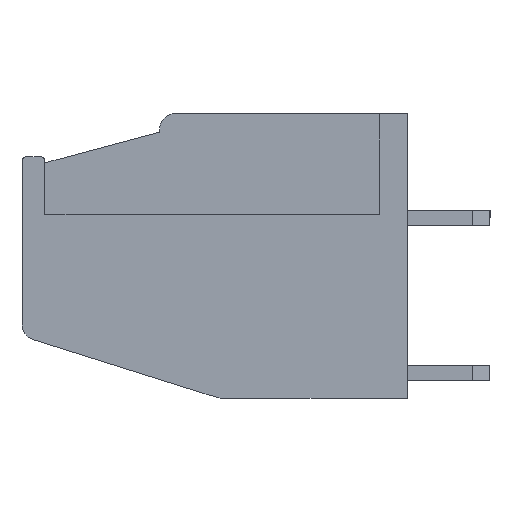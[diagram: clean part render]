
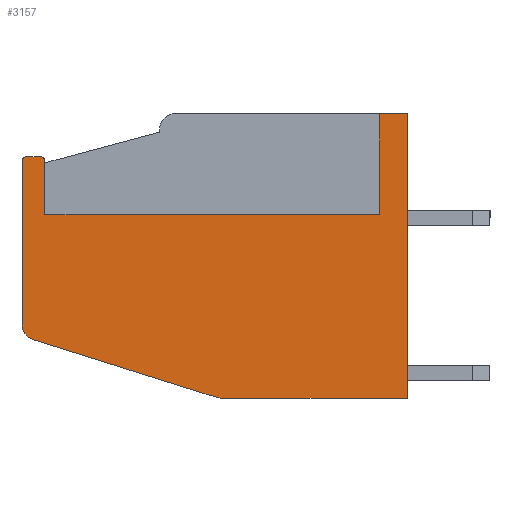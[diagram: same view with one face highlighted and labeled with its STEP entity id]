
A CAD part, left-side view. The second image highlights one B-rep face of the part: STEP entity #3157.
In plain terms, the highlighted planar face has unit normal (-1, 0, 0).
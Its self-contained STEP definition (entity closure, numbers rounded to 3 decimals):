
#31 = EDGE_CURVE ( 'NONE', #625, #3486, #2262, .T. ) ;
#81 = VERTEX_POINT ( 'NONE', #715 ) ;
#98 = VERTEX_POINT ( 'NONE', #2448 ) ;
#162 = CARTESIAN_POINT ( 'NONE',  ( -4.355, 11.85, 3.1 ) ) ;
#163 = ORIENTED_EDGE ( 'NONE', *, *, #609, .F. ) ;
#177 = EDGE_CURVE ( 'NONE', #2992, #2513, #2066, .T. ) ;
#265 = ORIENTED_EDGE ( 'NONE', *, *, #1905, .F. ) ;
#353 = ORIENTED_EDGE ( 'NONE', *, *, #3354, .F. ) ;
#400 = LINE ( 'NONE', #2614, #1692 ) ;
#405 = VERTEX_POINT ( 'NONE', #840 ) ;
#424 = CARTESIAN_POINT ( 'NONE',  ( -4.355, 12.6, 3.1 ) ) ;
#430 = VECTOR ( 'NONE', #2268, 1000. ) ;
#514 = CARTESIAN_POINT ( 'NONE',  ( -4.355, 6.074, -4.65 ) ) ;
#529 = LINE ( 'NONE', #2523, #3452 ) ;
#571 = ORIENTED_EDGE ( 'NONE', *, *, #2253, .F. ) ;
#596 = EDGE_CURVE ( 'NONE', #98, #1168, #529, .T. ) ;
#609 = EDGE_CURVE ( 'NONE', #405, #2055, #2670, .T. ) ;
#625 = VERTEX_POINT ( 'NONE', #514 ) ;
#638 = CARTESIAN_POINT ( 'NONE',  ( -4.355, 12.6, -2.25 ) ) ;
#661 = AXIS2_PLACEMENT_3D ( 'NONE', #1084, #2610, #3480 ) ;
#715 = CARTESIAN_POINT ( 'NONE',  ( -4.355, 0.9, 4.65 ) ) ;
#735 = DIRECTION ( 'NONE',  ( 0., 0.954, 0.301 ) ) ;
#744 = CARTESIAN_POINT ( 'NONE',  ( -4.355, 12.1, -2.25 ) ) ;
#784 = EDGE_CURVE ( 'NONE', #2055, #2992, #1138, .T. ) ;
#802 = ORIENTED_EDGE ( 'NONE', *, *, #31, .F. ) ;
#817 = VERTEX_POINT ( 'NONE', #162 ) ;
#840 = CARTESIAN_POINT ( 'NONE',  ( -4.355, 12.25, -2.727 ) ) ;
#956 = AXIS2_PLACEMENT_3D ( 'NONE', #3550, #1327, #966 ) ;
#963 = CIRCLE ( 'NONE', #1370, 0.15 ) ;
#966 = DIRECTION ( 'NONE',  ( 0., 0., -1. ) ) ;
#1021 = CARTESIAN_POINT ( 'NONE',  ( -4.355, 6.224, -4.627 ) ) ;
#1026 = DIRECTION ( 'NONE',  ( 0., -1., 0. ) ) ;
#1070 = DIRECTION ( 'NONE',  ( 0., 0., -1. ) ) ;
#1084 = CARTESIAN_POINT ( 'NONE',  ( -4.355, 6.074, -4.15 ) ) ;
#1106 = VERTEX_POINT ( 'NONE', #1750 ) ;
#1138 = LINE ( 'NONE', #638, #430 ) ;
#1168 = VERTEX_POINT ( 'NONE', #2295 ) ;
#1317 = LINE ( 'NONE', #1611, #1810 ) ;
#1320 = DIRECTION ( 'NONE',  ( 0., 0., -1. ) ) ;
#1327 = DIRECTION ( 'NONE',  ( 1., 0., 0. ) ) ;
#1345 = EDGE_CURVE ( 'NONE', #2037, #817, #963, .T. ) ;
#1370 = AXIS2_PLACEMENT_3D ( 'NONE', #2787, #2524, #1320 ) ;
#1456 = CARTESIAN_POINT ( 'NONE',  ( -4.355, 6.224, -4.627 ) ) ;
#1520 = CARTESIAN_POINT ( 'NONE',  ( -4.355, 7.6, 4.65 ) ) ;
#1534 = LINE ( 'NONE', #1887, #1565 ) ;
#1539 = AXIS2_PLACEMENT_3D ( 'NONE', #744, #3613, #1070 ) ;
#1565 = VECTOR ( 'NONE', #1026, 1000. ) ;
#1597 = DIRECTION ( 'NONE',  ( 0., 0., -1. ) ) ;
#1611 = CARTESIAN_POINT ( 'NONE',  ( -4.355, 0., -4.65 ) ) ;
#1642 = ORIENTED_EDGE ( 'NONE', *, *, #177, .F. ) ;
#1692 = VECTOR ( 'NONE', #2669, 1000. ) ;
#1750 = CARTESIAN_POINT ( 'NONE',  ( -4.355, 0., -4.65 ) ) ;
#1766 = EDGE_LOOP ( 'NONE', ( #265, #2659, #3039, #571, #3446, #2265, #1642, #2047, #163, #353, #802, #2246, #2004 ) ) ;
#1798 = LINE ( 'NONE', #1520, #1856 ) ;
#1810 = VECTOR ( 'NONE', #2468, 1000. ) ;
#1856 = VECTOR ( 'NONE', #2085, 1000. ) ;
#1867 = CARTESIAN_POINT ( 'NONE',  ( -4.355, 11.85, 3.1 ) ) ;
#1873 = CARTESIAN_POINT ( 'NONE',  ( -4.355, 0., 4.65 ) ) ;
#1887 = CARTESIAN_POINT ( 'NONE',  ( -4.355, 12.45, 3.25 ) ) ;
#1905 = EDGE_CURVE ( 'NONE', #81, #2034, #1798, .T. ) ;
#2004 = ORIENTED_EDGE ( 'NONE', *, *, #2356, .F. ) ;
#2034 = VERTEX_POINT ( 'NONE', #2780 ) ;
#2037 = VERTEX_POINT ( 'NONE', #2450 ) ;
#2047 = ORIENTED_EDGE ( 'NONE', *, *, #784, .F. ) ;
#2055 = VERTEX_POINT ( 'NONE', #2142 ) ;
#2066 = CIRCLE ( 'NONE', #956, 0.15 ) ;
#2085 = DIRECTION ( 'NONE',  ( 0., -1., 0. ) ) ;
#2142 = CARTESIAN_POINT ( 'NONE',  ( -4.355, 12.6, -2.25 ) ) ;
#2144 = DIRECTION ( 'NONE',  ( 0., 0., -1. ) ) ;
#2145 = DIRECTION ( 'NONE',  ( 0., 0., -1. ) ) ;
#2246 = ORIENTED_EDGE ( 'NONE', *, *, #2658, .F. ) ;
#2249 = EDGE_CURVE ( 'NONE', #2513, #2037, #1534, .T. ) ;
#2253 = EDGE_CURVE ( 'NONE', #817, #98, #3294, .T. ) ;
#2262 = CIRCLE ( 'NONE', #661, 0.5 ) ;
#2265 = ORIENTED_EDGE ( 'NONE', *, *, #2249, .F. ) ;
#2268 = DIRECTION ( 'NONE',  ( 0., 0., 1. ) ) ;
#2295 = CARTESIAN_POINT ( 'NONE',  ( -4.355, 0.9, 1.35 ) ) ;
#2356 = EDGE_CURVE ( 'NONE', #2034, #1106, #2527, .T. ) ;
#2376 = LINE ( 'NONE', #1021, #3606 ) ;
#2407 = VECTOR ( 'NONE', #1597, 1000. ) ;
#2448 = CARTESIAN_POINT ( 'NONE',  ( -4.355, 11.85, 1.35 ) ) ;
#2450 = CARTESIAN_POINT ( 'NONE',  ( -4.355, 12., 3.25 ) ) ;
#2468 = DIRECTION ( 'NONE',  ( 0., 1., 0. ) ) ;
#2513 = VERTEX_POINT ( 'NONE', #3240 ) ;
#2523 = CARTESIAN_POINT ( 'NONE',  ( -4.355, 11.85, 1.35 ) ) ;
#2524 = DIRECTION ( 'NONE',  ( 1., 0., 0. ) ) ;
#2527 = LINE ( 'NONE', #1873, #2407 ) ;
#2610 = DIRECTION ( 'NONE',  ( 1., 0., 0. ) ) ;
#2614 = CARTESIAN_POINT ( 'NONE',  ( -4.355, 0.9, 1.35 ) ) ;
#2658 = EDGE_CURVE ( 'NONE', #1106, #625, #1317, .T. ) ;
#2659 = ORIENTED_EDGE ( 'NONE', *, *, #2758, .F. ) ;
#2669 = DIRECTION ( 'NONE',  ( 0., 0., 1. ) ) ;
#2670 = CIRCLE ( 'NONE', #1539, 0.5 ) ;
#2701 = AXIS2_PLACEMENT_3D ( 'NONE', #3555, #3023, #2145 ) ;
#2758 = EDGE_CURVE ( 'NONE', #1168, #81, #400, .T. ) ;
#2780 = CARTESIAN_POINT ( 'NONE',  ( -4.355, 0., 4.65 ) ) ;
#2787 = CARTESIAN_POINT ( 'NONE',  ( -4.355, 12., 3.1 ) ) ;
#2970 = PLANE ( 'NONE',  #2701 ) ;
#2992 = VERTEX_POINT ( 'NONE', #424 ) ;
#3023 = DIRECTION ( 'NONE',  ( 1., 0., 0. ) ) ;
#3039 = ORIENTED_EDGE ( 'NONE', *, *, #596, .F. ) ;
#3157 = ADVANCED_FACE ( 'NONE', ( #3236 ), #2970, .F. ) ;
#3236 = FACE_OUTER_BOUND ( 'NONE', #1766, .T. ) ;
#3240 = CARTESIAN_POINT ( 'NONE',  ( -4.355, 12.45, 3.25 ) ) ;
#3294 = LINE ( 'NONE', #1867, #3654 ) ;
#3300 = DIRECTION ( 'NONE',  ( 0., -1., 0. ) ) ;
#3354 = EDGE_CURVE ( 'NONE', #3486, #405, #2376, .T. ) ;
#3446 = ORIENTED_EDGE ( 'NONE', *, *, #1345, .F. ) ;
#3452 = VECTOR ( 'NONE', #3300, 1000. ) ;
#3480 = DIRECTION ( 'NONE',  ( 0., 0., -1. ) ) ;
#3486 = VERTEX_POINT ( 'NONE', #1456 ) ;
#3550 = CARTESIAN_POINT ( 'NONE',  ( -4.355, 12.45, 3.1 ) ) ;
#3555 = CARTESIAN_POINT ( 'NONE',  ( -4.355, 6.074, -4.15 ) ) ;
#3606 = VECTOR ( 'NONE', #735, 1000. ) ;
#3613 = DIRECTION ( 'NONE',  ( 1., 0., 0. ) ) ;
#3654 = VECTOR ( 'NONE', #2144, 1000. ) ;
